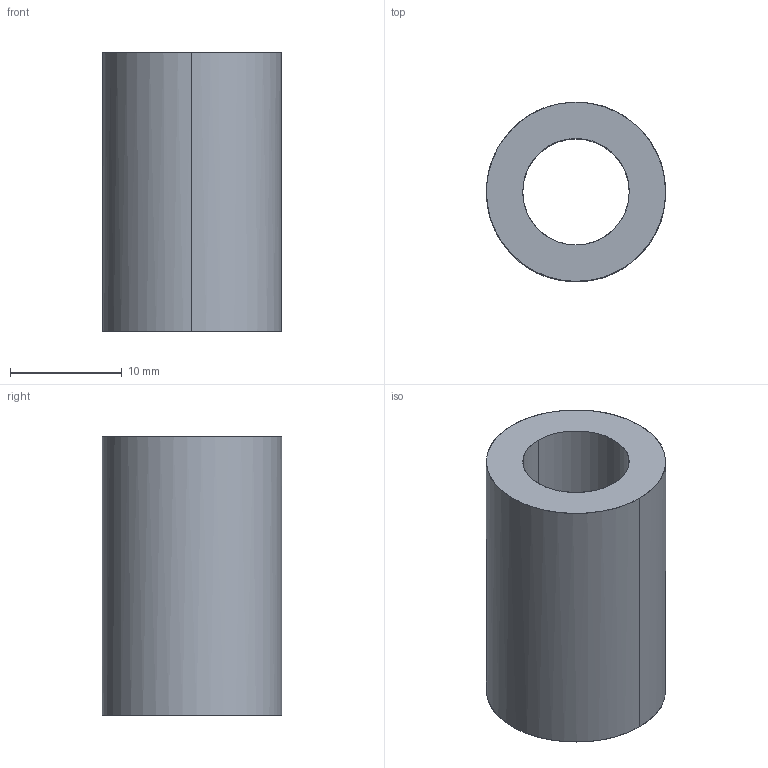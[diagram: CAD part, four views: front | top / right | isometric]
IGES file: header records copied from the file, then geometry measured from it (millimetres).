
Global section: file name: E:\UnigraphicsGraphicData\MISUMI_PRESS-PARTS\IGES\3d_swc16-25_00696_r00.igs; native system: NX V5.0; preprocessor: UGS NX IGES V5.0; author: MISUMI; date: 20110105.163254; units: millimetre
Bounding box: 16 x 16 x 25 mm (x, y, z)
Surface area: 2264 mm2 (no closed solid volume)
Topology: 0 solids, 0 shells, 6 faces, 48 edges, 48 vertices
Faces by surface type: bspline 6
